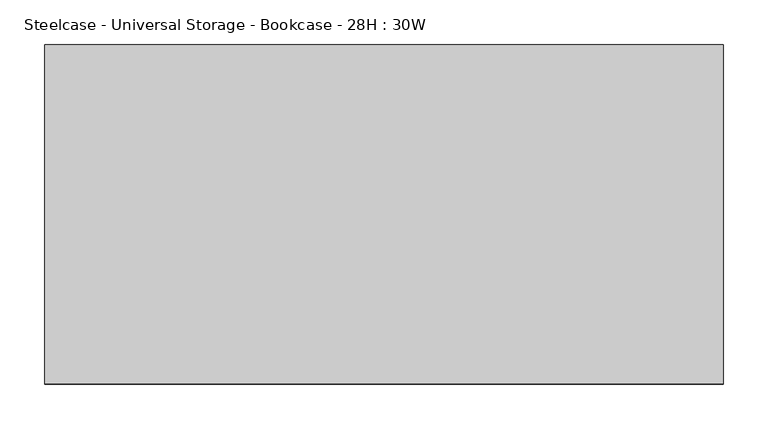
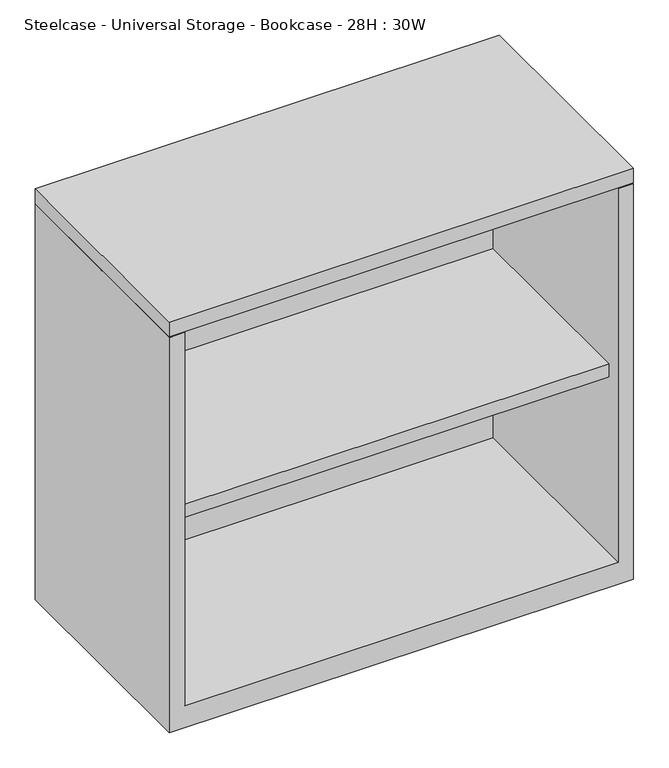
"""IFC4 building model written with IfcOpenShell, lengths in millimetres: furniture geometry, Steelcase - Universal Storage - Bookcase - 28H : 30W."""

from ifc_helpers import new_model, si_unit, frame, origin, place, context, project, spatial, polyline, outline, extrude, faceted_brep, source, transform, mapped, element, save


def steelcase_universal_storage_bookcase_28h_30w_a1faaea0(model_context):
    return source(origin(), model_context, "Body", "SolidModel", [
        extrude(outline(polyline([(762.0, -98.552), (762.0, -479.552), (0.0, -479.552), (0.0, -98.552), (762.0, -98.552)])), frame((0.0, 0.0, 687.3239516), z_axis=(0.0, 0.0, 1.0), x_axis=(1.0, 0.0, 0.0)), (0.0, 0.0, 1.0), 25.4),
        extrude(outline(polyline([(736.6000242, -123.9520008), (736.6000242, -454.0250121), (25.4000008, -454.0250121), (25.4000008, -123.9520008), (736.6000242, -123.9520008)])), frame((0.0, 0.0, 344.424), z_axis=(0.0, 0.0, 1.0), x_axis=(1.0, 0.0, 0.0)), (0.0, 0.0, 1.0), 22.2249516),
        faceted_brep([(25.4000008, -479.552, 38.1), (736.6000242, -479.552, 38.1), (736.6000242, -123.9520008, 38.1), (25.4000008, -123.9520008, 38.1), (762.0, -98.552, 0.0), (762.0, -479.552, 0.0), (0.0, -479.552, 0.0), (0.0, -98.552, 0.0), (0.0, -98.552, 685.8), (762.0, -98.552, 685.8), (0.0, -479.552, 685.8), (762.0, -479.552, 685.8), (736.6000242, -479.552, 685.8), (25.4000008, -479.552, 685.8), (736.6000242, -123.9520008, 685.8), (25.4000008, -123.9520008, 685.8)], [[[0, 1, 2, 3]], [[4, 5, 6, 7]], [[4, 7, 8, 9]], [[8, 7, 6, 10]], [[10, 6, 5, 11, 12, 1, 0, 13]], [[11, 5, 4, 9]], [[14, 12, 11, 9, 8, 10, 13, 15]], [[12, 14, 2, 1]], [[15, 13, 0, 3]], [[14, 15, 3, 2]]]),
    ])


if __name__ == "__main__":
    model = new_model("IFC4")
    model_context = context("Model", 3, world=origin())
    ifc_project = project(units=[si_unit("LENGTHUNIT", "METRE", prefix="MILLI")], contexts=[model_context])
    site = spatial("IfcSite", under=ifc_project)
    building = spatial("IfcBuilding", under=site)
    placement = place(None, origin())
    steelcase_universal_storage_bookcase_28h_30w_shape = steelcase_universal_storage_bookcase_28h_30w_a1faaea0(model_context)
    element("IfcFurniture", 1, ObjectType="Steelcase - Universal Storage - Bookcase - 28H : 30W", at=placement, inside=building, context=model_context, shape_type="MappedRepresentation", body=[
        mapped(steelcase_universal_storage_bookcase_28h_30w_shape, transform((0.0, 0.0, 0.0), x_axis=(1.0, 0.0, 0.0), y_axis=(0.0, 1.0, 0.0), z_axis=(0.0, 0.0, 1.0))),
    ])
    save(model, "model.ifc")
